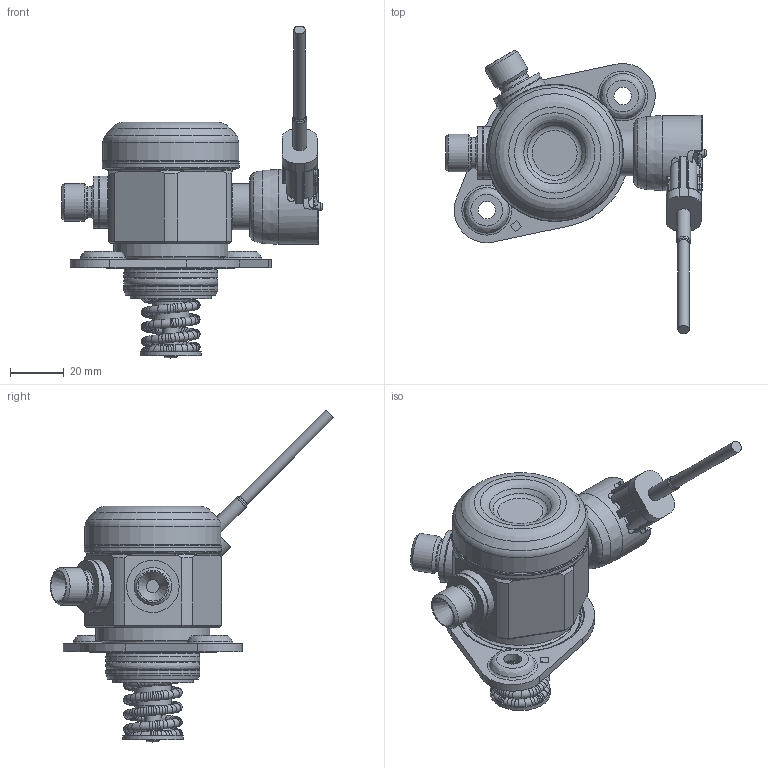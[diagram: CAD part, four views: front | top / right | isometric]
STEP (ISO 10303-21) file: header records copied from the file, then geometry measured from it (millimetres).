
FILE_DESCRIPTION(/* description */ (''),/* implementation_level */ '2;1');
FILE_NAME(/* name */ '026152008F-01_a_01_BDC_.stp',/* time_stamp */ '2023-05-05T17:15:45+07:00',/* author */ (''),/* organization */ (''),/* preprocessor_version */ 'ST-DEVELOPER v18.102',/* originating_system */ 'SIEMENS PLM Software NX2206.8501',/* authorisation */ '');
FILE_SCHEMA (('AUTOMOTIVE_DESIGN { 1 0 10303 214 3 1 1 1 }'));
Length unit declared in the file: millimetre
Products named in the file (1): 026152008F-01.001-Hochdruckpumpe HDP5 _altrep_ 026152008F-01_a_01_BDC
_
Bounding box: 97 x 105.41 x 123.45 mm (x, y, z)
Volume: 138486.1 mm3; surface area: 32649.3 mm2
Topology: 1 solids, 1 shells, 842 faces, 2053 edges, 1217 vertices
Faces by surface type: torus 310, cylinder 225, plane 173, bspline 69, cone 48, sphere 17
Full cylindrical faces by diameter (mm): 3 x1, 4.2 x1, 5.2 x1, 6 x2, 6.5 x2, 8.5 x1, 9.985 x1, 11.6 x3, 12 x1, 13.5 x2, 14 x2, 14.7 x2, 14.9 x2, 17 x1, 19.5 x4, 22.5 x1, 28 x1, 32 x2, 34.96 x1, 34.985 x1, 42.29 x1, 42.4 x1, 47.5 x1, 50.5 x1, 50.9 x1, 51.01 x1
Entity records: 28107 total; most frequent: CARTESIAN_POINT 11074, ORIENTED_EDGE 3340, DIRECTION 3319, EDGE_CURVE 1670, AXIS2_PLACEMENT_3D 1456, EDGE_LOOP 1183, VERTEX_POINT 1157, ADVANCED_FACE 842
